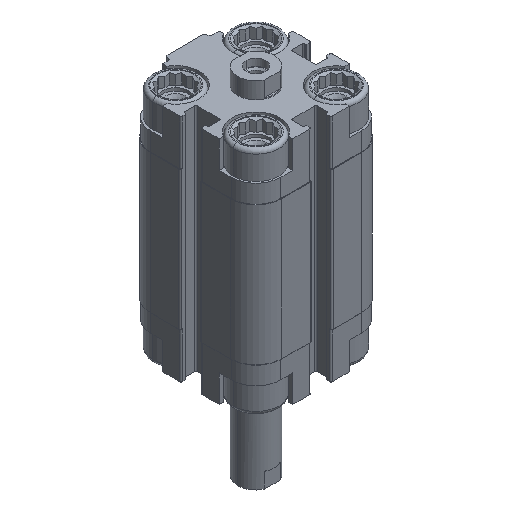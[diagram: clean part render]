
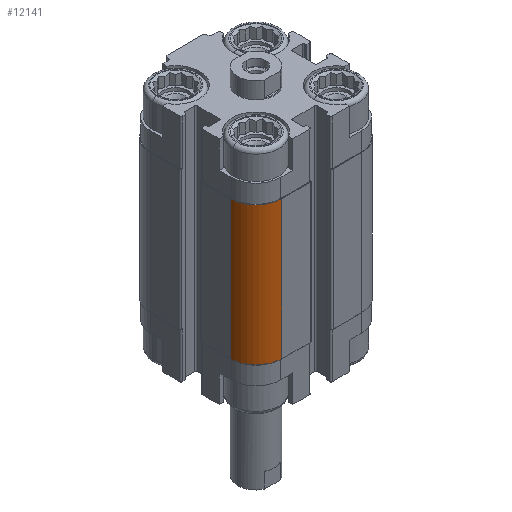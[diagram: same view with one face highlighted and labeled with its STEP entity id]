
A CAD part, isometric view. The second image highlights one B-rep face of the part: STEP entity #12141.
In plain terms, the highlighted cylindrical face has radius 7 mm (diameter 14 mm), a partial arc.
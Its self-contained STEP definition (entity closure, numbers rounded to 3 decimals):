
#740 = DIRECTION ( 'NONE',  ( -1., 0., 0. ) ) ;
#1399 = VECTOR ( 'NONE', #1652, 1000. ) ;
#1652 = DIRECTION ( 'NONE',  ( 0., 0., 1. ) ) ;
#2111 = EDGE_CURVE ( 'NONE', #2126, #16304, #15001, .T. ) ;
#2126 = VERTEX_POINT ( 'NONE', #13373 ) ;
#2401 = CARTESIAN_POINT ( 'NONE',  ( -11., -18., -12.5 ) ) ;
#3270 = LINE ( 'NONE', #14365, #1399 ) ;
#3373 = DIRECTION ( 'NONE',  ( 0., 0., 1. ) ) ;
#3760 = ORIENTED_EDGE ( 'NONE', *, *, #11551, .T. ) ;
#4504 = EDGE_LOOP ( 'NONE', ( #12962, #16158, #5724, #3760 ) ) ;
#5027 = DIRECTION ( 'NONE',  ( 0., 0., 1. ) ) ;
#5278 = EDGE_CURVE ( 'NONE', #16304, #6862, #5997, .T. ) ;
#5724 = ORIENTED_EDGE ( 'NONE', *, *, #13261, .T. ) ;
#5905 = CARTESIAN_POINT ( 'NONE',  ( -11., -18., -50.5 ) ) ;
#5997 = CIRCLE ( 'NONE', #13005, 7. ) ;
#6862 = VERTEX_POINT ( 'NONE', #2401 ) ;
#7551 = CARTESIAN_POINT ( 'NONE',  ( -18., -11., -50.5 ) ) ;
#7631 = CARTESIAN_POINT ( 'NONE',  ( -11., -11., -50.5 ) ) ;
#8402 = CIRCLE ( 'NONE', #8711, 7. ) ;
#8711 = AXIS2_PLACEMENT_3D ( 'NONE', #16247, #12053, #9188 ) ;
#9055 = CYLINDRICAL_SURFACE ( 'NONE', #10878, 7. ) ;
#9188 = DIRECTION ( 'NONE',  ( -1., 0., 0. ) ) ;
#10878 = AXIS2_PLACEMENT_3D ( 'NONE', #7631, #13453, #14981 ) ;
#11551 = EDGE_CURVE ( 'NONE', #15484, #6862, #3270, .T. ) ;
#12053 = DIRECTION ( 'NONE',  ( 0., 0., 1. ) ) ;
#12141 = ADVANCED_FACE ( 'NONE', ( #13550 ), #9055, .T. ) ;
#12279 = CARTESIAN_POINT ( 'NONE',  ( -11., -11., -12.5 ) ) ;
#12809 = VECTOR ( 'NONE', #3373, 1000. ) ;
#12962 = ORIENTED_EDGE ( 'NONE', *, *, #5278, .F. ) ;
#13005 = AXIS2_PLACEMENT_3D ( 'NONE', #12279, #5027, #740 ) ;
#13261 = EDGE_CURVE ( 'NONE', #2126, #15484, #8402, .T. ) ;
#13373 = CARTESIAN_POINT ( 'NONE',  ( -18., -11., -50.5 ) ) ;
#13453 = DIRECTION ( 'NONE',  ( 0., 0., -1. ) ) ;
#13550 = FACE_OUTER_BOUND ( 'NONE', #4504, .T. ) ;
#14365 = CARTESIAN_POINT ( 'NONE',  ( -11., -18., -50.5 ) ) ;
#14981 = DIRECTION ( 'NONE',  ( -1., 0., 0. ) ) ;
#15001 = LINE ( 'NONE', #7551, #12809 ) ;
#15484 = VERTEX_POINT ( 'NONE', #5905 ) ;
#16158 = ORIENTED_EDGE ( 'NONE', *, *, #2111, .F. ) ;
#16247 = CARTESIAN_POINT ( 'NONE',  ( -11., -11., -50.5 ) ) ;
#16304 = VERTEX_POINT ( 'NONE', #17887 ) ;
#17887 = CARTESIAN_POINT ( 'NONE',  ( -18., -11., -12.5 ) ) ;
